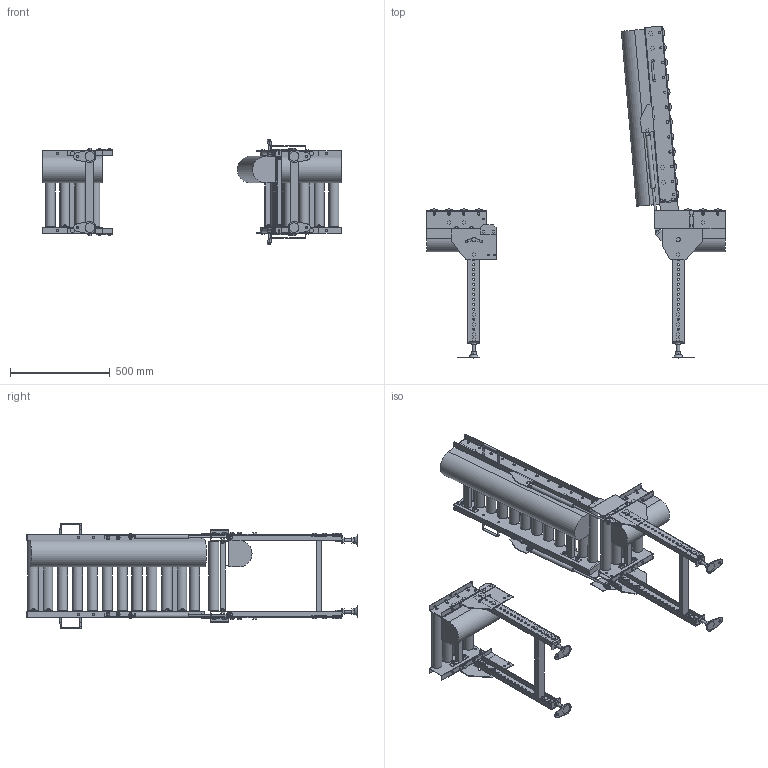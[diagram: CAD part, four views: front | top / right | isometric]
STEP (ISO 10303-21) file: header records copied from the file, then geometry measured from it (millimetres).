
FILE_DESCRIPTION( (''), '2;1');
FILE_NAME ('WEB-MCD50-355-75-90-L-HU.stp','2025-07-01T16:01:04',(''),(''),'spGate 20.6.2 (****-****-****-****)','','');
FILE_SCHEMA (('AUTOMOTIVE_DESIGN'));
Length unit declared in the file: millimetre
Products named in the file (26): WEB-MCD50-355-75-90-L-HU; TEMP_X_T-prt0; TEMP_X_T-prt1; TEMP_X_T-prt2; TEMP_X_T-prt3; TEMP_X_T-prt4; TEMP_X_T-prt5; TEMP_X_T-prt6; TEMP_X_T-prt7; TEMP_X_T-prt8; TEMP_X_T-prt9; TEMP_X_T-prt10; TEMP_X_T-prt11; TEMP_X_T-prt12; TEMP_X_T-prt13; TEMP_X_T-prt14; TEMP_X_T-prt15; TEMP_X_T-prt16; TEMP_X_T-prt17; TEMP_X_T-prt18; TEMP_X_T-prt19; TEMP_X_T-prt20; TEMP_X_T-prt21; TEMP_X_T-prt22; TEMP_X_T-prt23; TEMP_X_T-prt24
Assembly tree (25 placements, depth 2):
  WEB-MCD50-355-75-90-L-HU
    TEMP_X_T-prt0
    TEMP_X_T-prt1
    TEMP_X_T-prt2
    TEMP_X_T-prt3
    TEMP_X_T-prt4
    TEMP_X_T-prt5
    TEMP_X_T-prt6
    TEMP_X_T-prt7
    TEMP_X_T-prt8
    TEMP_X_T-prt9
    TEMP_X_T-prt10
    TEMP_X_T-prt11
    TEMP_X_T-prt12
    TEMP_X_T-prt13
    TEMP_X_T-prt14
    TEMP_X_T-prt15
    TEMP_X_T-prt16
    TEMP_X_T-prt17
    TEMP_X_T-prt18
    TEMP_X_T-prt19
    TEMP_X_T-prt20
    TEMP_X_T-prt21
    TEMP_X_T-prt22
    TEMP_X_T-prt23
    TEMP_X_T-prt24
Bounding box: 1500 x 1665.85 x 531.39 mm (x, y, z)
Volume: 39878966.4 mm3; surface area: 4196754.4 mm2
Topology: 25 solids, 51 shells, 2623 faces, 6656 edges, 4383 vertices
Faces by surface type: plane 2144, cylinder 461, bspline 18
Full cylindrical faces by diameter (mm): 8 x8, 8.5 x8, 9 x20, 10 x58, 10.5 x96, 11 x8, 12 x42, 13 x12, 14 x4, 15 x6, 15.4 x2, 15.7 x2, 16 x10, 17 x4, 18 x6, 18.4 x28, 18.5 x8, 21 x12, 22 x2, 50.8 x20
Entity records: 134780 total; most frequent: CARTESIAN_POINT 15180, DIRECTION 13458, ORIENTED_EDGE 13312, COLOUR_RGB 9304, PRESENTATION_STYLE_ASSIGNMENT 9304, STYLED_ITEM 9304, EDGE_CURVE 6656, DRAUGHTING_PRE_DEFINED_CURVE_FONT 6656
